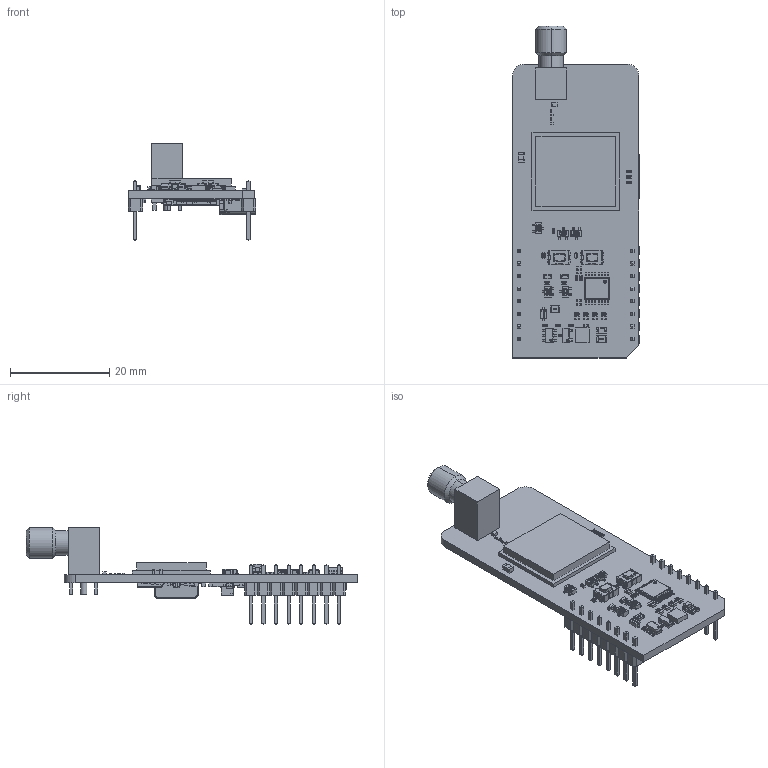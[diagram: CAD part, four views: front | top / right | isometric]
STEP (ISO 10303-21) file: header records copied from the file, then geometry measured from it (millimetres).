
FILE_DESCRIPTION(('Open CASCADE Model'),'2;1');
FILE_NAME('Open CASCADE Shape Model','2025-11-25T14:31:41',('Author'),( 'Open CASCADE'),'Open CASCADE STEP processor 7.5','Open CASCADE 7.5' ,'Unknown');
FILE_SCHEMA(('AUTOMOTIVE_DESIGN { 1 0 10303 214 1 1 1 1 }'));
Length unit declared in the file: millimetre
Products named in the file (174): PCB; Board; Open CASCADE STEP translator 7.5 1.1.1; D4; SOD323; U4; QFN28; R18; User Library-R_0402; R15; R14; R7; R5; C2; User Library-SMD CAPACITOR0402; U3; 7778332256; Extruded; 7778332096; C31; C30; User Library-SMD CAPACITOR0603; C29; User Library-SMD CAPACITOR1210; U6; User Library-TSSOP-16; U5; 7778325136; U2; User Library-SOT23-6-2; U1; 7778329136; TVS11; User Library-DIODE_SOD-923; TVS10; TVS9; TVS8; TVS6; TVS4; TVS2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
Assembly tree (248 placements, depth 10):
  PCB
    Board
      Open CASCADE STEP translator 7.5 1.1.1
    D4
      SOD323
    U4
      QFN28
    R18
      User Library-R_0402
    R15
      User Library-R_0402
    R14
      User Library-R_0402
    R7
      User Library-R_0402
    R5
      User Library-R_0402
    C2
      User Library-SMD CAPACITOR0402
    U3
      7778332256
        Extruded
      7778332096
        Extruded
    C31
      User Library-SMD CAPACITOR0402
    C30
      User Library-SMD CAPACITOR0603
    C29
      User Library-SMD CAPACITOR1210
    U6
      User Library-TSSOP-16
    U5
      7778325136
        Extruded
    U2
      User Library-SOT23-6-2
    U1
      7778329136
        Extruded
    TVS11
      User Library-DIODE_SOD-923
    TVS10
      User Library-DIODE_SOD-923
    TVS9
      User Library-DIODE_SOD-923
    TVS8
      User Library-DIODE_SOD-923
    TVS6
      User Library-DIODE_SOD-923
    TVS4
      User Library-DIODE_SOD-923
    TVS2
      User Library-R_0603
    TVS1
      CDBQ0230L
    T2
      User Library-Switch-CK-KMR2
        User Library-Switch-CK-KMR2_Button
        User Library-Switch-CK-KMR2_Boitier
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Bounding box: 25.78 x 66.88 x 19.66 mm (x, y, z)
Volume: 4559 mm3; surface area: 8565.7 mm2
Topology: 268 solids, 270 shells, 10518 faces, 26694 edges, 16800 vertices
Faces by surface type: plane 5572, bspline 3145, cylinder 1463, sphere 308, cone 20, torus 10
Full cylindrical faces by diameter (mm): 0.6 x2, 1.307 x12
Entity records: 141075 total; most frequent: CARTESIAN_POINT 41085, ORIENTED_EDGE 17114, DIRECTION 14257, EDGE_CURVE 8558, LINE 5965, VECTOR 5965, VERTEX_POINT 5516, AXIS2_PLACEMENT_3D 4146
